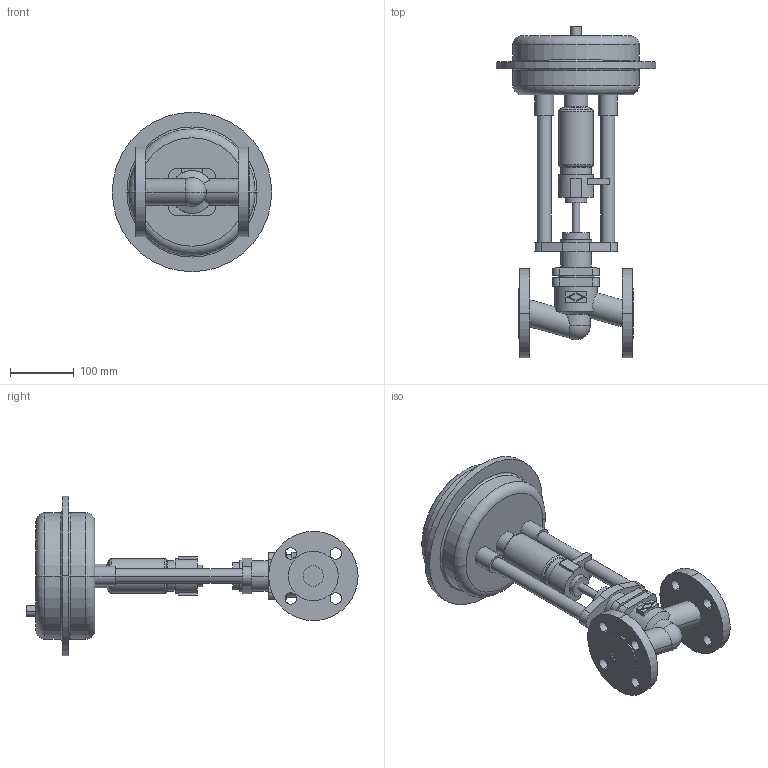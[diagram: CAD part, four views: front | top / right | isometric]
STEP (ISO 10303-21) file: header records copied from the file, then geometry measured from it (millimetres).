
FILE_DESCRIPTION(('OneSpaceDesigner STEP Export'),'2;1');
FILE_NAME('c000001404.stp','2005-02-14T14:02:55',(''),(''),'OneSpace Designer STEP processor (Jan. 2003) for AP203(Solid Model)','OneSpace Designer 12.01D 09-Jul-2004 (C) CoCreate Software GmbH','');
FILE_SCHEMA(('CONFIG_CONTROL_DESIGN'));
Length unit declared in the file: millimetre
Products named in the file (2): 1; 2
Bounding box: 250 x 520.5 x 250 mm (x, y, z)
Volume: 4648736.8 mm3; surface area: 358456.9 mm2
Topology: 2 solids, 2 shells, 181 faces, 437 edges, 285 vertices
Faces by surface type: cylinder 84, plane 73, torus 16, cone 6, sphere 2
Entity records: 5050 total; most frequent: CARTESIAN_POINT 985, ORIENTED_EDGE 870, DIRECTION 727, EDGE_CURVE 435, VERTEX_POINT 285, AXIS2_PLACEMENT_3D 264, EDGE_LOOP 224, VECTOR 199
